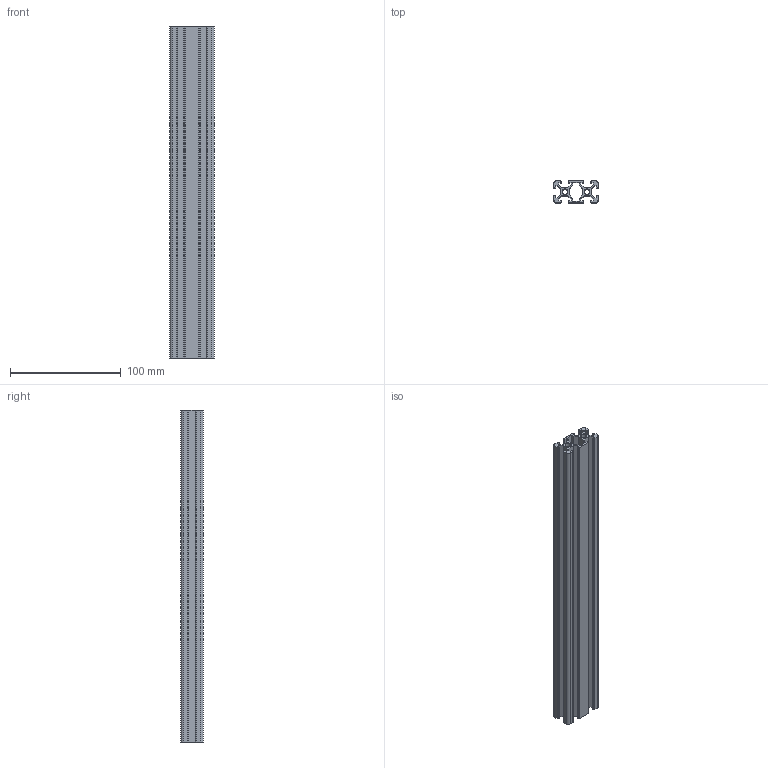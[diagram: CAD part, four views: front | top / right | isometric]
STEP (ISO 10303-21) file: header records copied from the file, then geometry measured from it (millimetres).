
FILE_DESCRIPTION (( 'STEP AP203' ), '1' );
FILE_NAME ('5-CE-2040-6.STEP', '2015-07-07T02:35:20', ( '' ), ( '' ), 'SwSTEP 2.0', 'SolidWorks 2013', '' );
FILE_SCHEMA (( 'CONFIG_CONTROL_DESIGN' ));
Length unit declared in the file: millimetre
Products named in the file (1): 5-CE-2040-6
Bounding box: 40 x 20 x 300 mm (x, y, z)
Volume: 82199.1 mm3; surface area: 93433.7 mm2
Topology: 1 solids, 1 shells, 158 faces, 468 edges, 312 vertices
Faces by surface type: plane 102, cylinder 56
Entity records: 5373 total; most frequent: CARTESIAN_POINT 939, ORIENTED_EDGE 936, DIRECTION 898, EDGE_CURVE 468, LINE 356, VECTOR 356, VERTEX_POINT 312, AXIS2_PLACEMENT_3D 271
